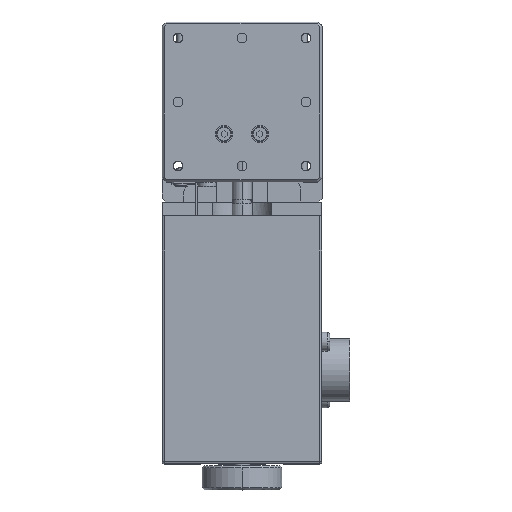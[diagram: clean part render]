
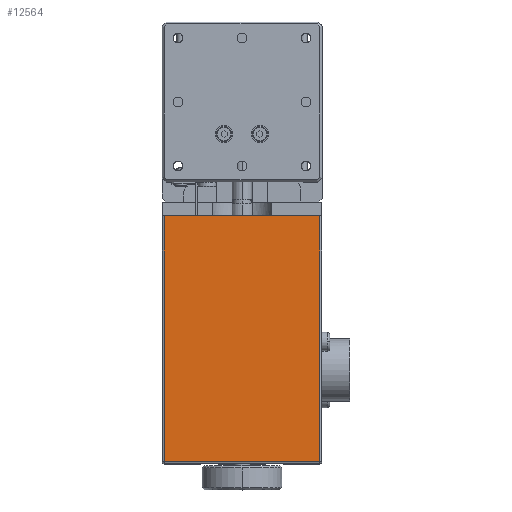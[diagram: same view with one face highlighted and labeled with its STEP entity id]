
A CAD part, top view. The second image highlights one B-rep face of the part: STEP entity #12564.
In plain terms, the highlighted planar face has unit normal (0, 0, 1).
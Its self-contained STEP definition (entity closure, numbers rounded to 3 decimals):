
#12385=CARTESIAN_POINT('',(19.4,-87.4,21.5));
#12386=VERTEX_POINT('',#12385);
#12419=CARTESIAN_POINT('',(-19.4,-87.4,21.5));
#12420=VERTEX_POINT('',#12419);
#12454=CARTESIAN_POINT('',(-19.4,-26.,21.5));
#12455=VERTEX_POINT('',#12454);
#12456=CARTESIAN_POINT('',(-19.4,-87.4,21.5));
#12457=DIRECTION('',(0.0,1.0,0.0));
#12458=VECTOR('',#12457,61.4);
#12459=LINE('',#12456,#12458);
#12460=EDGE_CURVE('',#12420,#12455,#12459,.T.);
#12496=CARTESIAN_POINT('',(19.4,-87.4,21.5));
#12497=DIRECTION('',(-1.0,0.0,0.0));
#12498=VECTOR('',#12497,38.8);
#12499=LINE('',#12496,#12498);
#12500=EDGE_CURVE('',#12386,#12420,#12499,.T.);
#12512=CARTESIAN_POINT('',(19.4,-26.,21.5));
#12513=VERTEX_POINT('',#12512);
#12521=CARTESIAN_POINT('',(19.4,-26.,21.5));
#12522=DIRECTION('',(0.0,-1.0,0.0));
#12523=VECTOR('',#12522,61.4);
#12524=LINE('',#12521,#12523);
#12525=EDGE_CURVE('',#12513,#12386,#12524,.T.);
#12548=CARTESIAN_POINT('',(0.,-57.,21.5));
#12549=DIRECTION('',(0.0,0.0,-1.0));
#12550=DIRECTION('',(0.0,1.0,0.0));
#12551=AXIS2_PLACEMENT_3D('',#12548,#12549,#12550);
#12552=PLANE('',#12551);
#12553=ORIENTED_EDGE('',*,*,#12460,.F.);
#12554=ORIENTED_EDGE('',*,*,#12500,.F.);
#12555=ORIENTED_EDGE('',*,*,#12525,.F.);
#12556=CARTESIAN_POINT('',(19.4,-26.,21.5));
#12557=DIRECTION('',(-1.0,0.0,0.0));
#12558=VECTOR('',#12557,38.8);
#12559=LINE('',#12556,#12558);
#12560=EDGE_CURVE('',#12513,#12455,#12559,.T.);
#12561=ORIENTED_EDGE('',*,*,#12560,.T.);
#12562=EDGE_LOOP('',(#12553,#12554,#12555,#12561));
#12563=FACE_OUTER_BOUND('',#12562,.T.);
#12564=ADVANCED_FACE('',(#12563),#12552,.F.);
